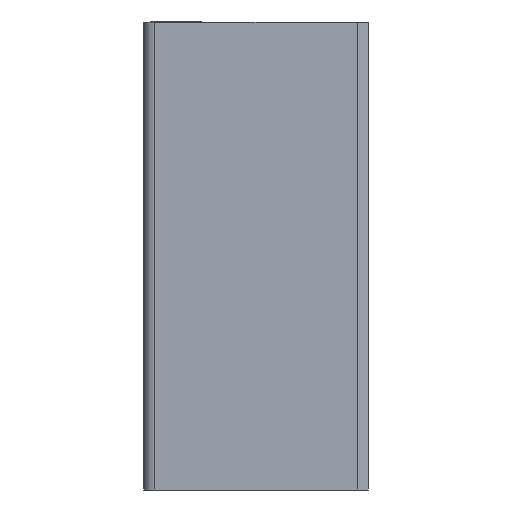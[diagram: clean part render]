
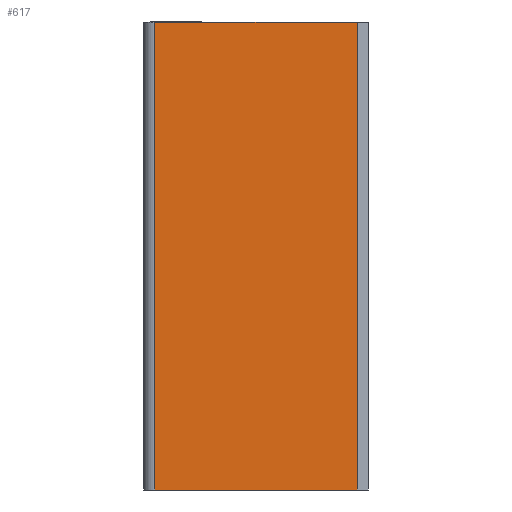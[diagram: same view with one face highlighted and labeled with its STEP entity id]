
A CAD part, left-side view. The second image highlights one B-rep face of the part: STEP entity #617.
In plain terms, the highlighted planar face has unit normal (-1, 0, 0).
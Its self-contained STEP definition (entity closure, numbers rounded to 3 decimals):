
#97=CARTESIAN_POINT('Line Origine',(0.,30.,0.)) ;
#101=CARTESIAN_POINT('Vertex',(0.,57.,0.)) ;
#103=CARTESIAN_POINT('Vertex',(0.,3.,0.)) ;
#520=CARTESIAN_POINT('Line Origine',(0.,30.,-125.)) ;
#524=CARTESIAN_POINT('Vertex',(0.,57.,-125.)) ;
#526=CARTESIAN_POINT('Vertex',(0.,3.,-125.)) ;
#596=CARTESIAN_POINT('Axis2P3D Location',(0.,57.,-125.)) ;
#601=CARTESIAN_POINT('Line Origine',(0.,57.,-62.5)) ;
#606=CARTESIAN_POINT('Line Origine',(0.,3.,-62.5)) ;
#98=DIRECTION('Vector Direction',(0.,-1.,0.)) ;
#521=DIRECTION('Vector Direction',(0.,-1.,0.)) ;
#597=DIRECTION('Axis2P3D Direction',(-1.,0.,0.)) ;
#598=DIRECTION('Axis2P3D XDirection',(0.,0.,1.)) ;
#602=DIRECTION('Vector Direction',(0.,0.,1.)) ;
#607=DIRECTION('Vector Direction',(0.,0.,1.)) ;
#599=AXIS2_PLACEMENT_3D('Plane Axis2P3D',#596,#597,#598) ;
#612=ORIENTED_EDGE('',*,*,#105,.F.) ;
#613=ORIENTED_EDGE('',*,*,#605,.F.) ;
#614=ORIENTED_EDGE('',*,*,#528,.T.) ;
#615=ORIENTED_EDGE('',*,*,#610,.T.) ;
#99=VECTOR('Line Direction',#98,1.) ;
#522=VECTOR('Line Direction',#521,1.) ;
#603=VECTOR('Line Direction',#602,1.) ;
#608=VECTOR('Line Direction',#607,1.) ;
#617=ADVANCED_FACE('A935-12517060',(#616),#600,.T.) ;
#105=EDGE_CURVE('',#102,#104,#100,.T.) ;
#528=EDGE_CURVE('',#525,#527,#523,.T.) ;
#605=EDGE_CURVE('',#525,#102,#604,.T.) ;
#610=EDGE_CURVE('',#527,#104,#609,.T.) ;
#611=EDGE_LOOP('',(#612,#613,#614,#615)) ;
#616=FACE_OUTER_BOUND('',#611,.T.) ;
#100=LINE('Line',#97,#99) ;
#523=LINE('Line',#520,#522) ;
#604=LINE('Line',#601,#603) ;
#609=LINE('Line',#606,#608) ;
#600=PLANE('Plane',#599) ;
#102=VERTEX_POINT('',#101) ;
#104=VERTEX_POINT('',#103) ;
#525=VERTEX_POINT('',#524) ;
#527=VERTEX_POINT('',#526) ;
